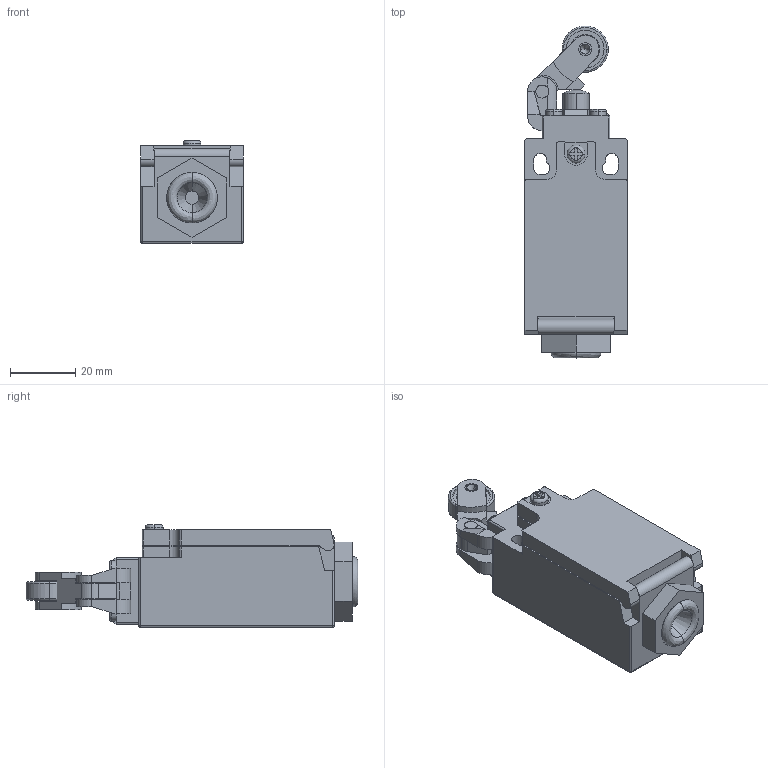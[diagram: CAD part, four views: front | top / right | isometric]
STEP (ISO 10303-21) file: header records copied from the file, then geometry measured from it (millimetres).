
FILE_DESCRIPTION (( 'STEP AP203' ), '1' );
FILE_NAME ('FM9224.STEP', '2018-06-01T16:55:55', ( '' ), ( '' ), 'SwSTEP 2.0', 'SolidWorks 2012', '' );
FILE_SCHEMA (( 'CONFIG_CONTROL_DESIGN' ));
Length unit declared in the file: millimetre
Products named in the file (1): FM9224
Bounding box: 31.3 x 101.8 x 31.5 mm (x, y, z)
Volume: 61202.4 mm3; surface area: 14183.5 mm2
Topology: 1 solids, 1 shells, 348 faces, 925 edges, 592 vertices
Faces by surface type: plane 206, cylinder 108, torus 21, cone 6, sphere 5, bspline 2
Entity records: 11192 total; most frequent: CARTESIAN_POINT 2322, DIRECTION 1841, ORIENTED_EDGE 1836, EDGE_CURVE 918, LINE 627, VECTOR 627, AXIS2_PLACEMENT_3D 607, VERTEX_POINT 590
